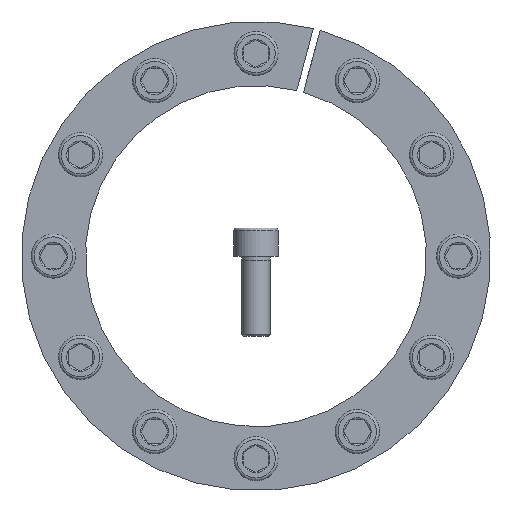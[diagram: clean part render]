
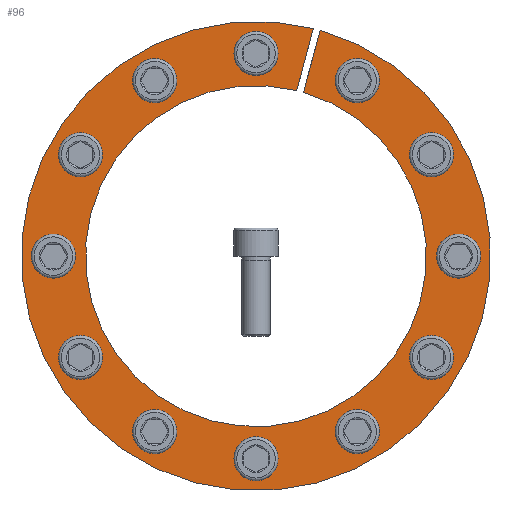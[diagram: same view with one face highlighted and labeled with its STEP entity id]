
A CAD part, front view. The second image highlights one B-rep face of the part: STEP entity #96.
In plain terms, the highlighted planar face has unit normal (0, -1, 0).
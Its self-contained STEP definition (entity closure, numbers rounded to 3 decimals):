
#96 = ADVANCED_FACE( '', ( #219, #220, #221, #222, #223, #224, #225, #226, #227, #228, #229, #230, #231 ), #232, .F. );
#219 = FACE_BOUND( '', #437, .T. );
#220 = FACE_BOUND( '', #438, .T. );
#221 = FACE_BOUND( '', #439, .T. );
#222 = FACE_BOUND( '', #440, .T. );
#223 = FACE_BOUND( '', #441, .T. );
#224 = FACE_BOUND( '', #442, .T. );
#225 = FACE_BOUND( '', #443, .T. );
#226 = FACE_BOUND( '', #444, .T. );
#227 = FACE_BOUND( '', #445, .T. );
#228 = FACE_BOUND( '', #446, .T. );
#229 = FACE_BOUND( '', #447, .T. );
#230 = FACE_BOUND( '', #448, .T. );
#231 = FACE_OUTER_BOUND( '', #449, .T. );
#232 = PLANE( '', #450 );
#437 = EDGE_LOOP( '', ( #706 ) );
#438 = EDGE_LOOP( '', ( #707 ) );
#439 = EDGE_LOOP( '', ( #708 ) );
#440 = EDGE_LOOP( '', ( #709 ) );
#441 = EDGE_LOOP( '', ( #710 ) );
#442 = EDGE_LOOP( '', ( #711 ) );
#443 = EDGE_LOOP( '', ( #712 ) );
#444 = EDGE_LOOP( '', ( #713 ) );
#445 = EDGE_LOOP( '', ( #714 ) );
#446 = EDGE_LOOP( '', ( #715 ) );
#447 = EDGE_LOOP( '', ( #716 ) );
#448 = EDGE_LOOP( '', ( #717 ) );
#449 = EDGE_LOOP( '', ( #718, #719, #720, #721 ) );
#450 = AXIS2_PLACEMENT_3D( '', #722, #723, #724 );
#706 = ORIENTED_EDGE( '', *, *, #1024, .T. );
#707 = ORIENTED_EDGE( '', *, *, #1040, .T. );
#708 = ORIENTED_EDGE( '', *, *, #1035, .T. );
#709 = ORIENTED_EDGE( '', *, *, #1041, .T. );
#710 = ORIENTED_EDGE( '', *, *, #1042, .T. );
#711 = ORIENTED_EDGE( '', *, *, #1043, .T. );
#712 = ORIENTED_EDGE( '', *, *, #1044, .T. );
#713 = ORIENTED_EDGE( '', *, *, #1045, .T. );
#714 = ORIENTED_EDGE( '', *, *, #1046, .T. );
#715 = ORIENTED_EDGE( '', *, *, #1047, .T. );
#716 = ORIENTED_EDGE( '', *, *, #1048, .T. );
#717 = ORIENTED_EDGE( '', *, *, #1027, .T. );
#718 = ORIENTED_EDGE( '', *, *, #1049, .T. );
#719 = ORIENTED_EDGE( '', *, *, #1050, .T. );
#720 = ORIENTED_EDGE( '', *, *, #1051, .T. );
#721 = ORIENTED_EDGE( '', *, *, #1052, .F. );
#722 = CARTESIAN_POINT( '', ( 0., 0., 117. ) );
#723 = DIRECTION( '', ( 0., 1., 0. ) );
#724 = DIRECTION( '', ( 0., 0., 1. ) );
#1024 = EDGE_CURVE( '', #1210, #1210, #1211, .T. );
#1027 = EDGE_CURVE( '', #1215, #1215, #1216, .T. );
#1035 = EDGE_CURVE( '', #1229, #1229, #1230, .T. );
#1040 = EDGE_CURVE( '', #1237, #1237, #1238, .T. );
#1041 = EDGE_CURVE( '', #1239, #1239, #1240, .T. );
#1042 = EDGE_CURVE( '', #1241, #1241, #1242, .T. );
#1043 = EDGE_CURVE( '', #1243, #1243, #1244, .T. );
#1044 = EDGE_CURVE( '', #1245, #1245, #1246, .T. );
#1045 = EDGE_CURVE( '', #1247, #1247, #1248, .T. );
#1046 = EDGE_CURVE( '', #1249, #1249, #1250, .T. );
#1047 = EDGE_CURVE( '', #1251, #1251, #1252, .T. );
#1048 = EDGE_CURVE( '', #1253, #1253, #1254, .T. );
#1049 = EDGE_CURVE( '', #1255, #1256, #1257, .T. );
#1050 = EDGE_CURVE( '', #1256, #1258, #1259, .T. );
#1051 = EDGE_CURVE( '', #1258, #1260, #1261, .T. );
#1052 = EDGE_CURVE( '', #1255, #1260, #1262, .T. );
#1210 = VERTEX_POINT( '', #1543 );
#1211 = CIRCLE( '', #1544, 7. );
#1215 = VERTEX_POINT( '', #1548 );
#1216 = CIRCLE( '', #1549, 7. );
#1229 = VERTEX_POINT( '', #1564 );
#1230 = CIRCLE( '', #1565, 7. );
#1237 = VERTEX_POINT( '', #1572 );
#1238 = CIRCLE( '', #1573, 7. );
#1239 = VERTEX_POINT( '', #1574 );
#1240 = CIRCLE( '', #1575, 7. );
#1241 = VERTEX_POINT( '', #1576 );
#1242 = CIRCLE( '', #1577, 7. );
#1243 = VERTEX_POINT( '', #1578 );
#1244 = CIRCLE( '', #1579, 7. );
#1245 = VERTEX_POINT( '', #1580 );
#1246 = CIRCLE( '', #1581, 7. );
#1247 = VERTEX_POINT( '', #1582 );
#1248 = CIRCLE( '', #1583, 7. );
#1249 = VERTEX_POINT( '', #1584 );
#1250 = CIRCLE( '', #1585, 7. );
#1251 = VERTEX_POINT( '', #1586 );
#1252 = CIRCLE( '', #1587, 7. );
#1253 = VERTEX_POINT( '', #1588 );
#1254 = CIRCLE( '', #1589, 7. );
#1255 = VERTEX_POINT( '', #1590 );
#1256 = VERTEX_POINT( '', #1591 );
#1257 = LINE( '', #1592, #1593 );
#1258 = VERTEX_POINT( '', #1594 );
#1259 = CIRCLE( '', #1595, 117. );
#1260 = VERTEX_POINT( '', #1596 );
#1261 = LINE( '', #1597, #1598 );
#1262 = CIRCLE( '', #1599, 85. );
#1543 = CARTESIAN_POINT( '', ( -44.438, 0., 90.969 ) );
#1544 = AXIS2_PLACEMENT_3D( '', #1782, #1783, #1784 );
#1548 = CARTESIAN_POINT( '', ( -83.969, 0., 56.562 ) );
#1549 = AXIS2_PLACEMENT_3D( '', #1788, #1789, #1790 );
#1564 = CARTESIAN_POINT( '', ( -56.562, 0., -83.969 ) );
#1565 = AXIS2_PLACEMENT_3D( '', #1802, #1803, #1804 );
#1572 = CARTESIAN_POINT( '', ( -101., 0., 7. ) );
#1573 = AXIS2_PLACEMENT_3D( '', #1811, #1812, #1813 );
#1574 = CARTESIAN_POINT( '', ( 44.438, 0., -90.969 ) );
#1575 = AXIS2_PLACEMENT_3D( '', #1814, #1815, #1816 );
#1576 = CARTESIAN_POINT( '', ( 101., 0., -7. ) );
#1577 = AXIS2_PLACEMENT_3D( '', #1817, #1818, #1819 );
#1578 = CARTESIAN_POINT( '', ( 56.562, 0., 83.969 ) );
#1579 = AXIS2_PLACEMENT_3D( '', #1820, #1821, #1822 );
#1580 = CARTESIAN_POINT( '', ( 7., 0., 101. ) );
#1581 = AXIS2_PLACEMENT_3D( '', #1823, #1824, #1825 );
#1582 = CARTESIAN_POINT( '', ( 90.969, 0., 44.438 ) );
#1583 = AXIS2_PLACEMENT_3D( '', #1826, #1827, #1828 );
#1584 = CARTESIAN_POINT( '', ( 83.969, 0., -56.562 ) );
#1585 = AXIS2_PLACEMENT_3D( '', #1829, #1830, #1831 );
#1586 = CARTESIAN_POINT( '', ( -7., 0., -101. ) );
#1587 = AXIS2_PLACEMENT_3D( '', #1832, #1833, #1834 );
#1588 = CARTESIAN_POINT( '', ( -90.969, 0., -44.438 ) );
#1589 = AXIS2_PLACEMENT_3D( '', #1835, #1836, #1837 );
#1590 = CARTESIAN_POINT( '', ( 20.305, 0., 82.539 ) );
#1591 = CARTESIAN_POINT( '', ( 28.588, 0., 113.454 ) );
#1592 = CARTESIAN_POINT( '', ( 20.305, 0., 82.539 ) );
#1593 = VECTOR( '', #1838, 1000. );
#1594 = CARTESIAN_POINT( '', ( 31.969, 0., 112.548 ) );
#1595 = AXIS2_PLACEMENT_3D( '', #1839, #1840, #1841 );
#1596 = CARTESIAN_POINT( '', ( 23.685, 0., 81.633 ) );
#1597 = CARTESIAN_POINT( '', ( 31.972, 0., 112.56 ) );
#1598 = VECTOR( '', #1842, 1000. );
#1599 = AXIS2_PLACEMENT_3D( '', #1843, #1844, #1845 );
#1782 = CARTESIAN_POINT( '', ( -50.5, 0., 87.469 ) );
#1783 = DIRECTION( '', ( 0., 1., 0. ) );
#1784 = DIRECTION( '', ( 0.866, 0., 0.5 ) );
#1788 = CARTESIAN_POINT( '', ( -87.469, 0., 50.5 ) );
#1789 = DIRECTION( '', ( 0., 1., 0. ) );
#1790 = DIRECTION( '', ( 0.5, 0., 0.866 ) );
#1802 = CARTESIAN_POINT( '', ( -50.5, 0., -87.469 ) );
#1803 = DIRECTION( '', ( 0., 1., 0. ) );
#1804 = DIRECTION( '', ( -0.866, 0., 0.5 ) );
#1811 = CARTESIAN_POINT( '', ( -101., 0., 0. ) );
#1812 = DIRECTION( '', ( 0., 1., 0. ) );
#1813 = DIRECTION( '', ( 0., 0., 1. ) );
#1814 = CARTESIAN_POINT( '', ( 50.5, 0., -87.469 ) );
#1815 = DIRECTION( '', ( 0., 1., 0. ) );
#1816 = DIRECTION( '', ( -0.866, 0., -0.5 ) );
#1817 = CARTESIAN_POINT( '', ( 101., 0., 0. ) );
#1818 = DIRECTION( '', ( 0., 1., 0. ) );
#1819 = DIRECTION( '', ( 0., 0., -1. ) );
#1820 = CARTESIAN_POINT( '', ( 50.5, 0., 87.469 ) );
#1821 = DIRECTION( '', ( 0., 1., 0. ) );
#1822 = DIRECTION( '', ( 0.866, 0., -0.5 ) );
#1823 = CARTESIAN_POINT( '', ( 0., 0., 101. ) );
#1824 = DIRECTION( '', ( 0., 1., 0. ) );
#1825 = DIRECTION( '', ( 1., 0., 0. ) );
#1826 = CARTESIAN_POINT( '', ( 87.469, 0., 50.5 ) );
#1827 = DIRECTION( '', ( 0., 1., 0. ) );
#1828 = DIRECTION( '', ( 0.5, 0., -0.866 ) );
#1829 = CARTESIAN_POINT( '', ( 87.469, 0., -50.5 ) );
#1830 = DIRECTION( '', ( 0., 1., 0. ) );
#1831 = DIRECTION( '', ( -0.5, 0., -0.866 ) );
#1832 = CARTESIAN_POINT( '', ( 0., 0., -101. ) );
#1833 = DIRECTION( '', ( 0., 1., 0. ) );
#1834 = DIRECTION( '', ( -1., 0., 0. ) );
#1835 = CARTESIAN_POINT( '', ( -87.469, 0., -50.5 ) );
#1836 = DIRECTION( '', ( 0., 1., 0. ) );
#1837 = DIRECTION( '', ( -0.5, 0., 0.866 ) );
#1838 = DIRECTION( '', ( 0.259, 0., 0.966 ) );
#1839 = CARTESIAN_POINT( '', ( 0., 0., 0. ) );
#1840 = DIRECTION( '', ( 0., -1., 0. ) );
#1841 = DIRECTION( '', ( 0., 0., -1. ) );
#1842 = DIRECTION( '', ( -0.259, 0., -0.966 ) );
#1843 = CARTESIAN_POINT( '', ( 0., 0., 0. ) );
#1844 = DIRECTION( '', ( 0., -1., 0. ) );
#1845 = DIRECTION( '', ( 0., 0., -1. ) );
